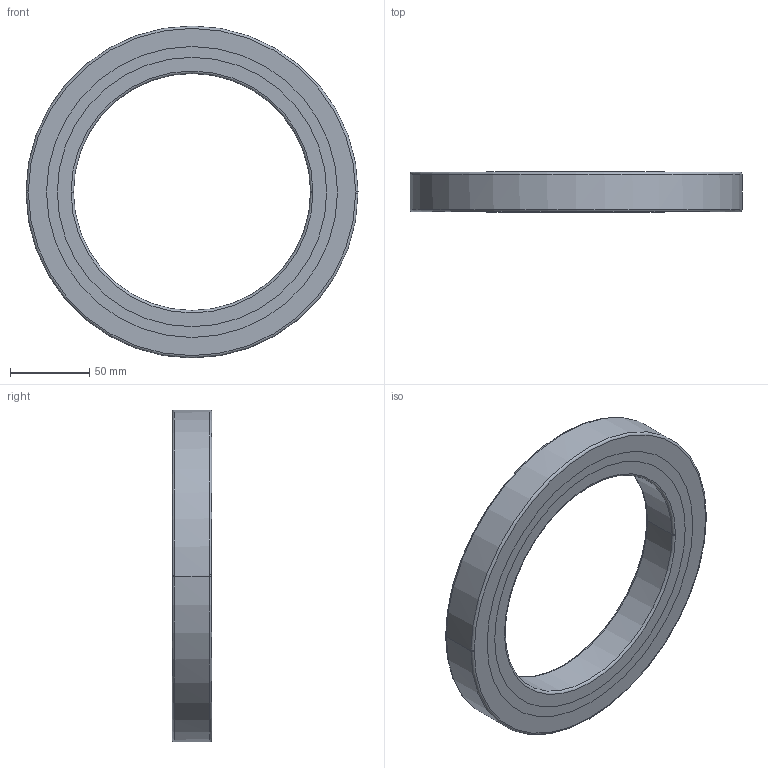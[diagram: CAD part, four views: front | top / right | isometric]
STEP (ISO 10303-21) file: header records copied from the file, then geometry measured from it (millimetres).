
FILE_DESCRIPTION(('no description'),'unknown implementation level');
FILE_NAME('CRBC15025_7.stp',' ',('HIWIN GmbH'),('CADClick - KiM GmbH - www.kimweb.de'),'unknown preprocess','ACIS','unknown authorization');
FILE_SCHEMA(('automotive_design'));
Length unit declared in the file: millimetre
Products named in the file (4): CRBC15025_1; CRBC15025_2; CRBC15025_3; CRBC15025
Bounding box: 210 x 25 x 210 mm (x, y, z)
Volume: 343527.5 mm3; surface area: 100606.3 mm2
Topology: 4 solids, 4 shells, 40 faces, 88 edges, 56 vertices
Faces by surface type: cylinder 16, torus 16, plane 8
Entity records: 2289 total; most frequent: DIRECTION 248, STYLED_ITEM 188, PRESENTATION_STYLE_ASSIGNMENT 188, CARTESIAN_POINT 188, COLOUR_RGB 188, ORIENTED_EDGE 176, AXIS2_PLACEMENT_3D 116, EDGE_CURVE 88
